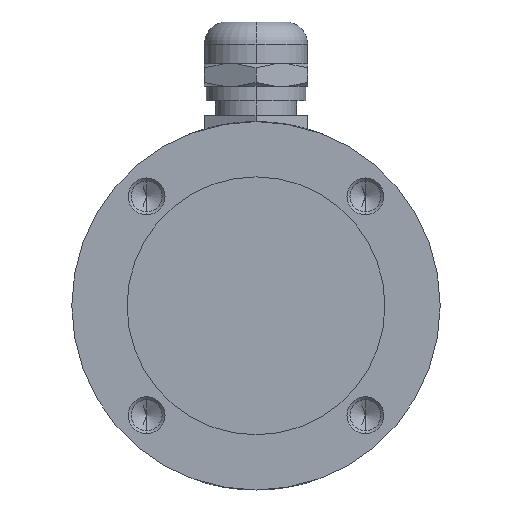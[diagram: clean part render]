
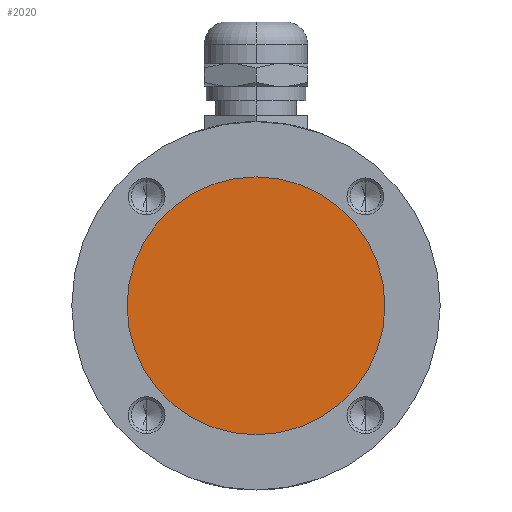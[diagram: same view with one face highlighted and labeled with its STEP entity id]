
A CAD part, front view. The second image highlights one B-rep face of the part: STEP entity #2020.
In plain terms, the highlighted planar face has unit normal (0, -1, 0) as drawn and (0, 0, 1) by its records, which use the part's own axes.
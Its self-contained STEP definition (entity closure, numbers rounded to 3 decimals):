
#56 = EDGE_CURVE ( 'NONE', #2558, #748, #446, .T. ) ;
#58 = DIRECTION ( 'NONE',  ( 0., 0., 1. ) ) ;
#321 = EDGE_CURVE ( 'NONE', #748, #2558, #1306, .T. ) ;
#446 = CIRCLE ( 'NONE', #3189, 17.65 ) ;
#748 = VERTEX_POINT ( 'NONE', #1001 ) ;
#791 = CARTESIAN_POINT ( 'NONE',  ( 0., 0., 0.5 ) ) ;
#884 = CARTESIAN_POINT ( 'NONE',  ( 17.65, 0., 0.5 ) ) ;
#1001 = CARTESIAN_POINT ( 'NONE',  ( -17.65, 0., 0.5 ) ) ;
#1061 = FACE_OUTER_BOUND ( 'NONE', #2284, .T. ) ;
#1096 = DIRECTION ( 'NONE',  ( 1., 0., 0. ) ) ;
#1306 = CIRCLE ( 'NONE', #3740, 17.65 ) ;
#1587 = DIRECTION ( 'NONE',  ( 1., 0., 0. ) ) ;
#1892 = CARTESIAN_POINT ( 'NONE',  ( 0., 0., 0.5 ) ) ;
#1992 = AXIS2_PLACEMENT_3D ( 'NONE', #2805, #3423, #1587 ) ;
#2020 = ADVANCED_FACE ( 'NONE', ( #1061 ), #2499, .T. ) ;
#2206 = DIRECTION ( 'NONE',  ( 1., 0., 0. ) ) ;
#2284 = EDGE_LOOP ( 'NONE', ( #3428, #3818 ) ) ;
#2499 = PLANE ( 'NONE',  #1992 ) ;
#2558 = VERTEX_POINT ( 'NONE', #884 ) ;
#2805 = CARTESIAN_POINT ( 'NONE',  ( 0., 0., 0.5 ) ) ;
#2922 = DIRECTION ( 'NONE',  ( 0., 0., 1. ) ) ;
#3189 = AXIS2_PLACEMENT_3D ( 'NONE', #1892, #58, #2206 ) ;
#3423 = DIRECTION ( 'NONE',  ( 0., 0., 1. ) ) ;
#3428 = ORIENTED_EDGE ( 'NONE', *, *, #321, .T. ) ;
#3740 = AXIS2_PLACEMENT_3D ( 'NONE', #791, #2922, #1096 ) ;
#3818 = ORIENTED_EDGE ( 'NONE', *, *, #56, .T. ) ;
